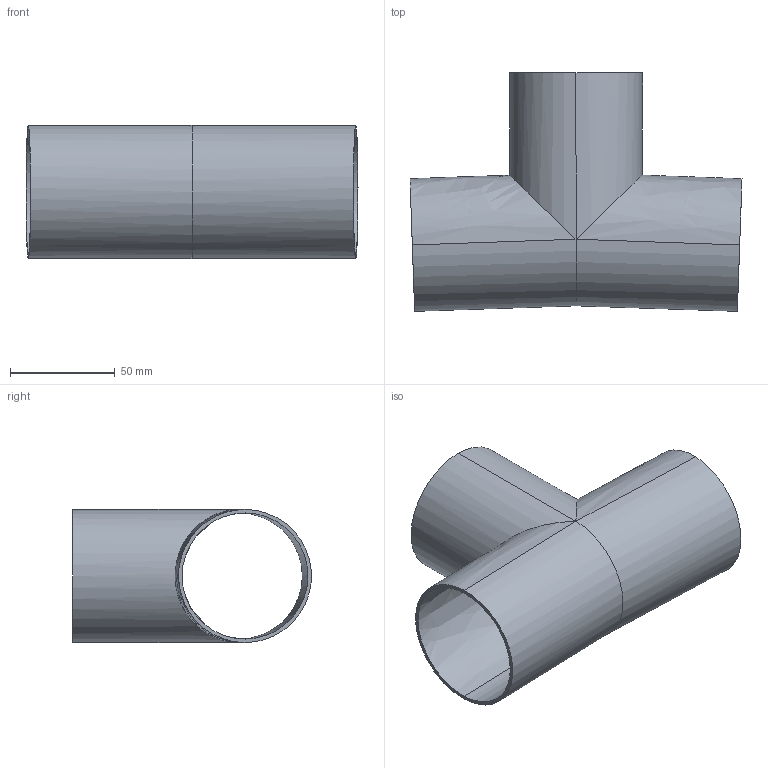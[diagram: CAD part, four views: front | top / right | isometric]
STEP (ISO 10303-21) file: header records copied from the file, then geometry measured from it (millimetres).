
FILE_DESCRIPTION (( 'STEP AP214' ), '1' );
FILE_NAME ('TE7WWW1766L2.5-...STEP', '2016-05-23T05:27:14', ( 'eran' ), ( '' ), 'SwSTEP 2.0', 'SolidWorks 2016', '' );
FILE_SCHEMA (( 'AUTOMOTIVE_DESIGN' ));
Length unit declared in the file: millimetre
Products named in the file (1): TE7WWW1766L2.5-..
Bounding box: 158.49 x 113.91 x 63.5 mm (x, y, z)
Volume: 63109.6 mm3; surface area: 77570.3 mm2
Topology: 1 solids, 1 shells, 15 faces, 30 edges, 16 vertices
Faces by surface type: bspline 8, cylinder 4, plane 3
Entity records: 1841 total; most frequent: CARTESIAN_POINT 1543, ORIENTED_EDGE 60, DIRECTION 40, EDGE_CURVE 30, EDGE_LOOP 18, VERTEX_POINT 16, ADVANCED_FACE 15, FACE_OUTER_BOUND 15
